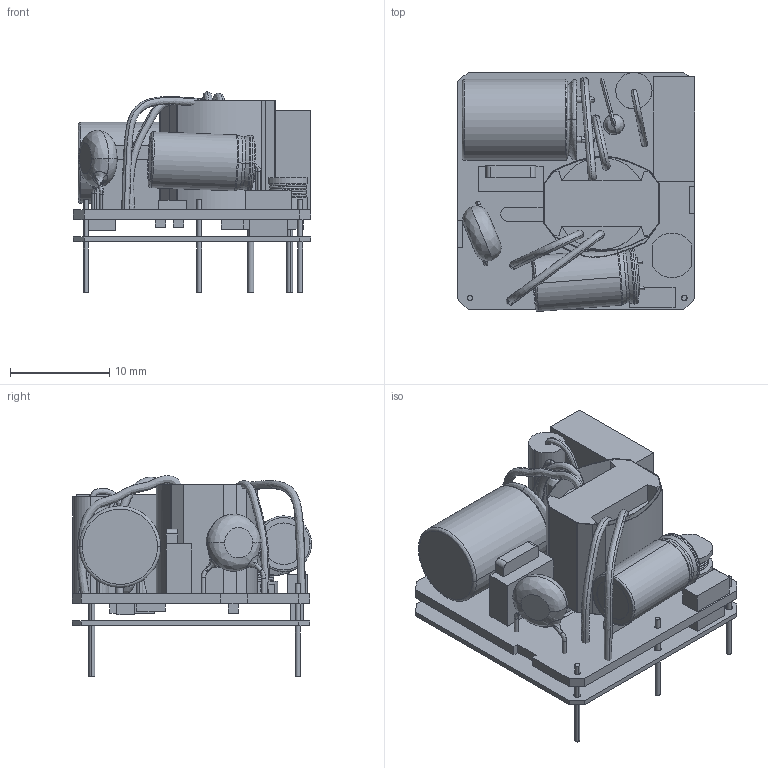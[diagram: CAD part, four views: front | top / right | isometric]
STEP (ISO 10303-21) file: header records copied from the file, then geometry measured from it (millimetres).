
FILE_DESCRIPTION (( 'STEP AP214' ), '1' );
FILE_NAME ('ECE05-P STEP.STEP', '2014-11-18T15:03:54', ( '' ), ( '' ), 'SwSTEP 2.0', 'SolidWorks 2014', '' );
FILE_SCHEMA (( 'AUTOMOTIVE_DESIGN' ));
Length unit declared in the file: inch
Products named in the file (16): PCB; inductor; CY4; bulk cap; insulator; cap; pin 2; PIN 0.6x8mm; FET; component; ECE05 Transformer; wire 3 and top; wire 2; wire 1; transformer body; ECE05-P STEP
Assembly tree (18 placements, depth 3):
  ECE05-P STEP
    ECE05 Transformer
      transformer body
      wire 1
      wire 2
      wire 3 and top
    component
    FET
    PIN 0.6x8mm  x2
    pin 2  x3
    cap
    insulator
    bulk cap
    CY4
    inductor
    PCB
Bounding box: 23.9 x 24.08 x 20.2 mm (x, y, z)
Volume: 3448.9 mm3; surface area: 6463.8 mm2
Topology: 17 solids, 17 shells, 389 faces, 921 edges, 590 vertices
Faces by surface type: plane 201, cylinder 100, bspline 84, cone 4
Entity records: 21639 total; most frequent: CARTESIAN_POINT 7552, ORIENTED_EDGE 1806, DIRECTION 1667, EDGE_CURVE 903, AXIS2_PLACEMENT_3D 581, VERTEX_POINT 578, VECTOR 505, LINE 505
